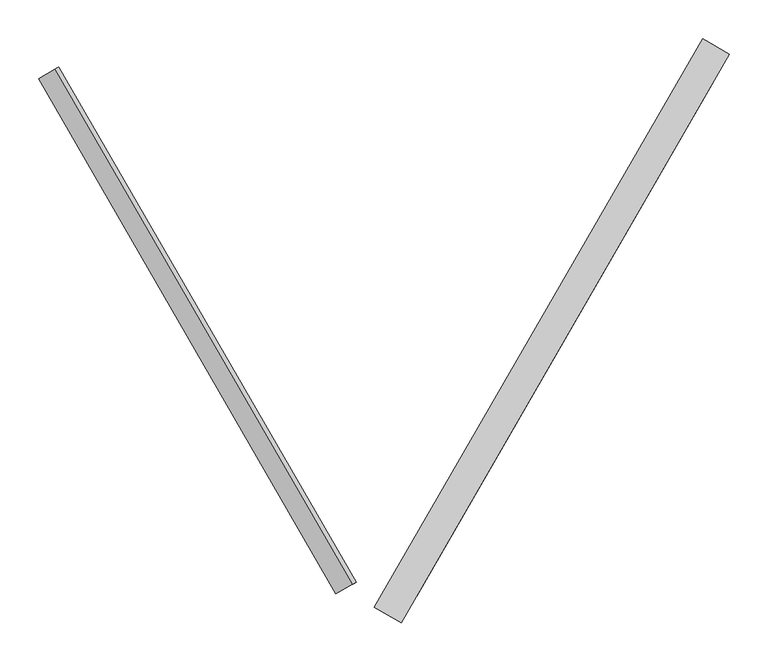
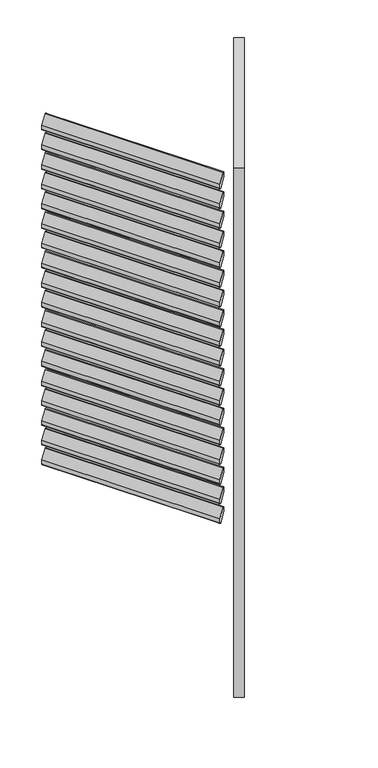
"""IFC4 building model written with IfcOpenShell, lengths in millimetres: proxy geometry, Renson_Amani_Loggia_Paro_Aluminium_Folding : Renson_Amani_Loggia_Paro_Aluminium_Folding."""

from ifc_helpers import new_model, si_unit, point, frame, frame_2d, origin, place, context, project, spatial, polyline, circle_curve, trimmed, segment, composite_curve, outline, extrude, source, transform, mapped, element, save


def generic_models_126ff3a6(model_context):
    return source(origin(), model_context, "Body", "SweptSolid", [
        extrude(outline(composite_curve([segment(trimmed(circle_curve(frame_2d((44.0658831, -3.0)), 3.0), [point((44.0658831, 0.0))], [point((45.6998002, -5.5160117))], False, "CARTESIAN"), True, "CONTINUOUS"), segment(polyline([(45.6998002, -5.5160117), (30.3011505, -15.5160117)]), True, "CONTINUOUS"), segment(trimmed(circle_curve(frame_2d((28.6672334, -13.0)), 3.0), [point((30.3011505, -15.5160117))], [point((28.6672334, -16.0))], False, "CARTESIAN"), True, "CONTINUOUS"), segment(polyline([(28.6672334, -16.0), (-15.3986496, -16.0)]), True, "CONTINUOUS"), segment(trimmed(circle_curve(frame_2d((-15.3986496, -13.0)), 3.0), [point((-15.3986496, -16.0))], [point((-17.0325667, -10.4839883))], False, "CARTESIAN"), True, "CONTINUOUS"), segment(polyline([(-17.0325667, -10.4839883), (-0.8886405, 0.0), (44.0658831, 0.0)]), True, "CONTINUOUS")], self_intersect=False)), frame((508.9546074, 37.7168064, 2397.3359298), z_axis=(0.5000000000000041, 0.8660254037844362, 0.0), x_axis=(-0.47167124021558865, 0.2723195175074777, 0.8386705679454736)), (0.0, 0.0, 1.0), 770.0),
        extrude(outline(composite_curve([segment(trimmed(circle_curve(frame_2d((44.0658831, -3.0)), 3.0), [point((44.0658831, 0.0))], [point((45.6998002, -5.5160117))], False, "CARTESIAN"), True, "CONTINUOUS"), segment(polyline([(45.6998002, -5.5160117), (30.3011505, -15.5160117)]), True, "CONTINUOUS"), segment(trimmed(circle_curve(frame_2d((28.6672334, -13.0)), 3.0), [point((30.3011505, -15.5160117))], [point((28.6672334, -16.0))], False, "CARTESIAN"), True, "CONTINUOUS"), segment(polyline([(28.6672334, -16.0), (-15.3986496, -16.0)]), True, "CONTINUOUS"), segment(trimmed(circle_curve(frame_2d((-15.3986496, -13.0)), 3.0), [point((-15.3986496, -16.0))], [point((-17.0325667, -10.4839883))], False, "CARTESIAN"), True, "CONTINUOUS"), segment(polyline([(-17.0325667, -10.4839883), (-0.8886405, 0.0), (44.0658831, 0.0)]), True, "CONTINUOUS")], self_intersect=False)), frame((508.9546074, 37.7168064, 2307.3359298), z_axis=(0.5000000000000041, 0.8660254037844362, 0.0), x_axis=(-0.47167124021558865, 0.2723195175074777, 0.8386705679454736)), (0.0, 0.0, 1.0), 770.0),
        extrude(outline(composite_curve([segment(trimmed(circle_curve(frame_2d((44.0658831, -3.0)), 3.0), [point((44.0658831, 0.0))], [point((45.6998002, -5.5160117))], False, "CARTESIAN"), True, "CONTINUOUS"), segment(polyline([(45.6998002, -5.5160117), (30.3011505, -15.5160117)]), True, "CONTINUOUS"), segment(trimmed(circle_curve(frame_2d((28.6672334, -13.0)), 3.0), [point((30.3011505, -15.5160117))], [point((28.6672334, -16.0))], False, "CARTESIAN"), True, "CONTINUOUS"), segment(polyline([(28.6672334, -16.0), (-15.3986496, -16.0)]), True, "CONTINUOUS"), segment(trimmed(circle_curve(frame_2d((-15.3986496, -13.0)), 3.0), [point((-15.3986496, -16.0))], [point((-17.0325667, -10.4839883))], False, "CARTESIAN"), True, "CONTINUOUS"), segment(polyline([(-17.0325667, -10.4839883), (-0.8886405, 0.0), (44.0658831, 0.0)]), True, "CONTINUOUS")], self_intersect=False)), frame((508.9546074, 37.7168064, 2217.3359298), z_axis=(0.5000000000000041, 0.8660254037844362, 0.0), x_axis=(-0.47167124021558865, 0.2723195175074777, 0.8386705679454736)), (0.0, 0.0, 1.0), 770.0),
        extrude(outline(composite_curve([segment(trimmed(circle_curve(frame_2d((44.0658831, -3.0)), 3.0), [point((44.0658831, 0.0))], [point((45.6998002, -5.5160117))], False, "CARTESIAN"), True, "CONTINUOUS"), segment(polyline([(45.6998002, -5.5160117), (30.3011505, -15.5160117)]), True, "CONTINUOUS"), segment(trimmed(circle_curve(frame_2d((28.6672334, -13.0)), 3.0), [point((30.3011505, -15.5160117))], [point((28.6672334, -16.0))], False, "CARTESIAN"), True, "CONTINUOUS"), segment(polyline([(28.6672334, -16.0), (-15.3986496, -16.0)]), True, "CONTINUOUS"), segment(trimmed(circle_curve(frame_2d((-15.3986496, -13.0)), 3.0), [point((-15.3986496, -16.0))], [point((-17.0325667, -10.4839883))], False, "CARTESIAN"), True, "CONTINUOUS"), segment(polyline([(-17.0325667, -10.4839883), (-0.8886405, 0.0), (44.0658831, 0.0)]), True, "CONTINUOUS")], self_intersect=False)), frame((508.9546074, 37.7168064, 2127.3359298), z_axis=(0.5000000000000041, 0.8660254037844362, 0.0), x_axis=(-0.47167124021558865, 0.2723195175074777, 0.8386705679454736)), (0.0, 0.0, 1.0), 770.0),
        extrude(outline(composite_curve([segment(trimmed(circle_curve(frame_2d((44.0658831, -3.0)), 3.0), [point((44.0658831, 0.0))], [point((45.6998002, -5.5160117))], False, "CARTESIAN"), True, "CONTINUOUS"), segment(polyline([(45.6998002, -5.5160117), (30.3011505, -15.5160117)]), True, "CONTINUOUS"), segment(trimmed(circle_curve(frame_2d((28.6672334, -13.0)), 3.0), [point((30.3011505, -15.5160117))], [point((28.6672334, -16.0))], False, "CARTESIAN"), True, "CONTINUOUS"), segment(polyline([(28.6672334, -16.0), (-15.3986496, -16.0)]), True, "CONTINUOUS"), segment(trimmed(circle_curve(frame_2d((-15.3986496, -13.0)), 3.0), [point((-15.3986496, -16.0))], [point((-17.0325667, -10.4839883))], False, "CARTESIAN"), True, "CONTINUOUS"), segment(polyline([(-17.0325667, -10.4839883), (-0.8886405, 0.0), (44.0658831, 0.0)]), True, "CONTINUOUS")], self_intersect=False)), frame((508.9546074, 37.7168064, 2037.3359298), z_axis=(0.5000000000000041, 0.8660254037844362, 0.0), x_axis=(-0.47167124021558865, 0.2723195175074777, 0.8386705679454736)), (0.0, 0.0, 1.0), 770.0),
        extrude(outline(composite_curve([segment(trimmed(circle_curve(frame_2d((44.0658831, -3.0)), 3.0), [point((44.0658831, 0.0))], [point((45.6998002, -5.5160117))], False, "CARTESIAN"), True, "CONTINUOUS"), segment(polyline([(45.6998002, -5.5160117), (30.3011505, -15.5160117)]), True, "CONTINUOUS"), segment(trimmed(circle_curve(frame_2d((28.6672334, -13.0)), 3.0), [point((30.3011505, -15.5160117))], [point((28.6672334, -16.0))], False, "CARTESIAN"), True, "CONTINUOUS"), segment(polyline([(28.6672334, -16.0), (-15.3986496, -16.0)]), True, "CONTINUOUS"), segment(trimmed(circle_curve(frame_2d((-15.3986496, -13.0)), 3.0), [point((-15.3986496, -16.0))], [point((-17.0325667, -10.4839883))], False, "CARTESIAN"), True, "CONTINUOUS"), segment(polyline([(-17.0325667, -10.4839883), (-0.8886405, 0.0), (44.0658831, 0.0)]), True, "CONTINUOUS")], self_intersect=False)), frame((508.9546074, 37.7168064, 1947.3359298), z_axis=(0.5000000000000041, 0.8660254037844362, 0.0), x_axis=(-0.47167124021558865, 0.2723195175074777, 0.8386705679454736)), (0.0, 0.0, 1.0), 770.0),
        extrude(outline(composite_curve([segment(trimmed(circle_curve(frame_2d((44.0658831, -3.0)), 3.0), [point((44.0658831, 0.0))], [point((45.6998002, -5.5160117))], False, "CARTESIAN"), True, "CONTINUOUS"), segment(polyline([(45.6998002, -5.5160117), (30.3011505, -15.5160117)]), True, "CONTINUOUS"), segment(trimmed(circle_curve(frame_2d((28.6672334, -13.0)), 3.0), [point((30.3011505, -15.5160117))], [point((28.6672334, -16.0))], False, "CARTESIAN"), True, "CONTINUOUS"), segment(polyline([(28.6672334, -16.0), (-15.3986496, -16.0)]), True, "CONTINUOUS"), segment(trimmed(circle_curve(frame_2d((-15.3986496, -13.0)), 3.0), [point((-15.3986496, -16.0))], [point((-17.0325667, -10.4839883))], False, "CARTESIAN"), True, "CONTINUOUS"), segment(polyline([(-17.0325667, -10.4839883), (-0.8886405, 0.0), (44.0658831, 0.0)]), True, "CONTINUOUS")], self_intersect=False)), frame((508.9546074, 37.7168064, 1857.3359298), z_axis=(0.5000000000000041, 0.8660254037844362, 0.0), x_axis=(-0.47167124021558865, 0.2723195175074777, 0.8386705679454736)), (0.0, 0.0, 1.0), 770.0),
        extrude(outline(composite_curve([segment(trimmed(circle_curve(frame_2d((44.0658831, -3.0)), 3.0), [point((44.0658831, 0.0))], [point((45.6998002, -5.5160117))], False, "CARTESIAN"), True, "CONTINUOUS"), segment(polyline([(45.6998002, -5.5160117), (30.3011505, -15.5160117)]), True, "CONTINUOUS"), segment(trimmed(circle_curve(frame_2d((28.6672334, -13.0)), 3.0), [point((30.3011505, -15.5160117))], [point((28.6672334, -16.0))], False, "CARTESIAN"), True, "CONTINUOUS"), segment(polyline([(28.6672334, -16.0), (-15.3986496, -16.0)]), True, "CONTINUOUS"), segment(trimmed(circle_curve(frame_2d((-15.3986496, -13.0)), 3.0), [point((-15.3986496, -16.0))], [point((-17.0325667, -10.4839883))], False, "CARTESIAN"), True, "CONTINUOUS"), segment(polyline([(-17.0325667, -10.4839883), (-0.8886405, 0.0), (44.0658831, 0.0)]), True, "CONTINUOUS")], self_intersect=False)), frame((508.9546074, 37.7168064, 1767.3359298), z_axis=(0.5000000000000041, 0.8660254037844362, 0.0), x_axis=(-0.47167124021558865, 0.2723195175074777, 0.8386705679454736)), (0.0, 0.0, 1.0), 770.0),
        extrude(outline(composite_curve([segment(trimmed(circle_curve(frame_2d((44.0658831, -3.0)), 3.0), [point((44.0658831, 0.0))], [point((45.6998002, -5.5160117))], False, "CARTESIAN"), True, "CONTINUOUS"), segment(polyline([(45.6998002, -5.5160117), (30.3011505, -15.5160117)]), True, "CONTINUOUS"), segment(trimmed(circle_curve(frame_2d((28.6672334, -13.0)), 3.0), [point((30.3011505, -15.5160117))], [point((28.6672334, -16.0))], False, "CARTESIAN"), True, "CONTINUOUS"), segment(polyline([(28.6672334, -16.0), (-15.3986496, -16.0)]), True, "CONTINUOUS"), segment(trimmed(circle_curve(frame_2d((-15.3986496, -13.0)), 3.0), [point((-15.3986496, -16.0))], [point((-17.0325667, -10.4839883))], False, "CARTESIAN"), True, "CONTINUOUS"), segment(polyline([(-17.0325667, -10.4839883), (-0.8886405, 0.0), (44.0658831, 0.0)]), True, "CONTINUOUS")], self_intersect=False)), frame((508.9546074, 37.7168064, 1677.3359298), z_axis=(0.5000000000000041, 0.8660254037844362, 0.0), x_axis=(-0.47167124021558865, 0.2723195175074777, 0.8386705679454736)), (0.0, 0.0, 1.0), 770.0),
        extrude(outline(composite_curve([segment(trimmed(circle_curve(frame_2d((44.0658831, -3.0)), 3.0), [point((44.0658831, 0.0))], [point((45.6998002, -5.5160117))], False, "CARTESIAN"), True, "CONTINUOUS"), segment(polyline([(45.6998002, -5.5160117), (30.3011505, -15.5160117)]), True, "CONTINUOUS"), segment(trimmed(circle_curve(frame_2d((28.6672334, -13.0)), 3.0), [point((30.3011505, -15.5160117))], [point((28.6672334, -16.0))], False, "CARTESIAN"), True, "CONTINUOUS"), segment(polyline([(28.6672334, -16.0), (-15.3986496, -16.0)]), True, "CONTINUOUS"), segment(trimmed(circle_curve(frame_2d((-15.3986496, -13.0)), 3.0), [point((-15.3986496, -16.0))], [point((-17.0325667, -10.4839883))], False, "CARTESIAN"), True, "CONTINUOUS"), segment(polyline([(-17.0325667, -10.4839883), (-0.8886405, 0.0), (44.0658831, 0.0)]), True, "CONTINUOUS")], self_intersect=False)), frame((508.9546074, 37.7168064, 1587.3359298), z_axis=(0.5000000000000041, 0.8660254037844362, 0.0), x_axis=(-0.47167124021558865, 0.2723195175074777, 0.8386705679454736)), (0.0, 0.0, 1.0), 770.0),
        extrude(outline(composite_curve([segment(trimmed(circle_curve(frame_2d((44.0658831, -3.0)), 3.0), [point((44.0658831, 0.0))], [point((45.6998002, -5.5160117))], False, "CARTESIAN"), True, "CONTINUOUS"), segment(polyline([(45.6998002, -5.5160117), (30.3011505, -15.5160117)]), True, "CONTINUOUS"), segment(trimmed(circle_curve(frame_2d((28.6672334, -13.0)), 3.0), [point((30.3011505, -15.5160117))], [point((28.6672334, -16.0))], False, "CARTESIAN"), True, "CONTINUOUS"), segment(polyline([(28.6672334, -16.0), (-15.3986496, -16.0)]), True, "CONTINUOUS"), segment(trimmed(circle_curve(frame_2d((-15.3986496, -13.0)), 3.0), [point((-15.3986496, -16.0))], [point((-17.0325667, -10.4839883))], False, "CARTESIAN"), True, "CONTINUOUS"), segment(polyline([(-17.0325667, -10.4839883), (-0.8886405, 0.0), (44.0658831, 0.0)]), True, "CONTINUOUS")], self_intersect=False)), frame((508.9546074, 37.7168064, 1497.3359298), z_axis=(0.5000000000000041, 0.8660254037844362, 0.0), x_axis=(-0.47167124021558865, 0.2723195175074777, 0.8386705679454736)), (0.0, 0.0, 1.0), 770.0),
        extrude(outline(composite_curve([segment(trimmed(circle_curve(frame_2d((44.0658831, -3.0)), 3.0), [point((44.0658831, 0.0))], [point((45.6998002, -5.5160117))], False, "CARTESIAN"), True, "CONTINUOUS"), segment(polyline([(45.6998002, -5.5160117), (30.3011505, -15.5160117)]), True, "CONTINUOUS"), segment(trimmed(circle_curve(frame_2d((28.6672334, -13.0)), 3.0), [point((30.3011505, -15.5160117))], [point((28.6672334, -16.0))], False, "CARTESIAN"), True, "CONTINUOUS"), segment(polyline([(28.6672334, -16.0), (-15.3986496, -16.0)]), True, "CONTINUOUS"), segment(trimmed(circle_curve(frame_2d((-15.3986496, -13.0)), 3.0), [point((-15.3986496, -16.0))], [point((-17.0325667, -10.4839883))], False, "CARTESIAN"), True, "CONTINUOUS"), segment(polyline([(-17.0325667, -10.4839883), (-0.8886405, 0.0), (44.0658831, 0.0)]), True, "CONTINUOUS")], self_intersect=False)), frame((508.9546074, 37.7168064, 1407.3359298), z_axis=(0.5000000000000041, 0.8660254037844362, 0.0), x_axis=(-0.47167124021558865, 0.2723195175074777, 0.8386705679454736)), (0.0, 0.0, 1.0), 770.0),
        extrude(outline(composite_curve([segment(trimmed(circle_curve(frame_2d((44.0658831, -3.0)), 3.0), [point((44.0658831, 0.0))], [point((45.6998002, -5.5160117))], False, "CARTESIAN"), True, "CONTINUOUS"), segment(polyline([(45.6998002, -5.5160117), (30.3011505, -15.5160117)]), True, "CONTINUOUS"), segment(trimmed(circle_curve(frame_2d((28.6672334, -13.0)), 3.0), [point((30.3011505, -15.5160117))], [point((28.6672334, -16.0))], False, "CARTESIAN"), True, "CONTINUOUS"), segment(polyline([(28.6672334, -16.0), (-15.3986496, -16.0)]), True, "CONTINUOUS"), segment(trimmed(circle_curve(frame_2d((-15.3986496, -13.0)), 3.0), [point((-15.3986496, -16.0))], [point((-17.0325667, -10.4839883))], False, "CARTESIAN"), True, "CONTINUOUS"), segment(polyline([(-17.0325667, -10.4839883), (-0.8886405, 0.0), (44.0658831, 0.0)]), True, "CONTINUOUS")], self_intersect=False)), frame((508.9546074, 37.7168064, 1317.3359298), z_axis=(0.5000000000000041, 0.8660254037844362, 0.0), x_axis=(-0.47167124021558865, 0.2723195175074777, 0.8386705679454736)), (0.0, 0.0, 1.0), 770.0),
        extrude(outline(composite_curve([segment(trimmed(circle_curve(frame_2d((44.0658831, -3.0)), 3.0), [point((44.0658831, 0.0))], [point((45.6998002, -5.5160117))], False, "CARTESIAN"), True, "CONTINUOUS"), segment(polyline([(45.6998002, -5.5160117), (30.3011505, -15.5160117)]), True, "CONTINUOUS"), segment(trimmed(circle_curve(frame_2d((28.6672334, -13.0)), 3.0), [point((30.3011505, -15.5160117))], [point((28.6672334, -16.0))], False, "CARTESIAN"), True, "CONTINUOUS"), segment(polyline([(28.6672334, -16.0), (-15.3986496, -16.0)]), True, "CONTINUOUS"), segment(trimmed(circle_curve(frame_2d((-15.3986496, -13.0)), 3.0), [point((-15.3986496, -16.0))], [point((-17.0325667, -10.4839883))], False, "CARTESIAN"), True, "CONTINUOUS"), segment(polyline([(-17.0325667, -10.4839883), (-0.8886405, 0.0), (44.0658831, 0.0)]), True, "CONTINUOUS")], self_intersect=False)), frame((508.9546074, 37.7168064, 1227.3359298), z_axis=(0.5000000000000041, 0.8660254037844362, 0.0), x_axis=(-0.47167124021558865, 0.2723195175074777, 0.8386705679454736)), (0.0, 0.0, 1.0), 770.0),
        extrude(outline(composite_curve([segment(trimmed(circle_curve(frame_2d((44.0658831, -3.0)), 3.0), [point((44.0658831, 0.0))], [point((45.6998002, -5.5160117))], False, "CARTESIAN"), True, "CONTINUOUS"), segment(polyline([(45.6998002, -5.5160117), (30.3011505, -15.5160117)]), True, "CONTINUOUS"), segment(trimmed(circle_curve(frame_2d((28.6672334, -13.0)), 3.0), [point((30.3011505, -15.5160117))], [point((28.6672334, -16.0))], False, "CARTESIAN"), True, "CONTINUOUS"), segment(polyline([(28.6672334, -16.0), (-15.3986496, -16.0)]), True, "CONTINUOUS"), segment(trimmed(circle_curve(frame_2d((-15.3986496, -13.0)), 3.0), [point((-15.3986496, -16.0))], [point((-17.0325667, -10.4839883))], False, "CARTESIAN"), True, "CONTINUOUS"), segment(polyline([(-17.0325667, -10.4839883), (-0.8886405, 0.0), (44.0658831, 0.0)]), True, "CONTINUOUS")], self_intersect=False)), frame((508.9546074, 37.7168064, 1137.3359298), z_axis=(0.5000000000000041, 0.8660254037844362, 0.0), x_axis=(-0.47167124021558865, 0.2723195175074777, 0.8386705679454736)), (0.0, 0.0, 1.0), 770.0),
        extrude(outline(composite_curve([segment(trimmed(circle_curve(frame_2d((44.0658831, -3.0)), 3.0), [point((44.0658831, 0.0))], [point((45.6998002, -5.5160117))], False, "CARTESIAN"), True, "CONTINUOUS"), segment(polyline([(45.6998002, -5.5160117), (30.3011505, -15.5160117)]), True, "CONTINUOUS"), segment(trimmed(circle_curve(frame_2d((28.6672334, -13.0)), 3.0), [point((30.3011505, -15.5160117))], [point((28.6672334, -16.0))], False, "CARTESIAN"), True, "CONTINUOUS"), segment(polyline([(28.6672334, -16.0), (-15.3986496, -16.0)]), True, "CONTINUOUS"), segment(trimmed(circle_curve(frame_2d((-15.3986496, -13.0)), 3.0), [point((-15.3986496, -16.0))], [point((-17.0325667, -10.4839883))], False, "CARTESIAN"), True, "CONTINUOUS"), segment(polyline([(-17.0325667, -10.4839883), (-0.8886405, 0.0), (44.0658831, 0.0)]), True, "CONTINUOUS")], self_intersect=False)), frame((508.9546074, 37.7168064, 1047.3359298), z_axis=(0.5000000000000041, 0.8660254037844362, 0.0), x_axis=(-0.47167124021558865, 0.2723195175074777, 0.8386705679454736)), (0.0, 0.0, 1.0), 770.0),
        extrude(outline(composite_curve([segment(trimmed(circle_curve(frame_2d((44.0658831, -3.0)), 3.0), [point((44.0658831, 0.0))], [point((45.6998002, -5.5160117))], False, "CARTESIAN"), True, "CONTINUOUS"), segment(polyline([(45.6998002, -5.5160117), (30.3011505, -15.5160117)]), True, "CONTINUOUS"), segment(trimmed(circle_curve(frame_2d((28.6672334, -13.0)), 3.0), [point((30.3011505, -15.5160117))], [point((28.6672334, -16.0))], False, "CARTESIAN"), True, "CONTINUOUS"), segment(polyline([(28.6672334, -16.0), (-15.3986496, -16.0)]), True, "CONTINUOUS"), segment(trimmed(circle_curve(frame_2d((-15.3986496, -13.0)), 3.0), [point((-15.3986496, -16.0))], [point((-17.0325667, -10.4839883))], False, "CARTESIAN"), True, "CONTINUOUS"), segment(polyline([(-17.0325667, -10.4839883), (-0.8886405, 0.0), (44.0658831, 0.0)]), True, "CONTINUOUS")], self_intersect=False)), frame((508.9546074, 37.7168064, 957.3359298), z_axis=(0.5000000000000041, 0.8660254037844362, 0.0), x_axis=(-0.47167124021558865, 0.2723195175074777, 0.8386705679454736)), (0.0, 0.0, 1.0), 770.0),
        extrude(outline(composite_curve([segment(trimmed(circle_curve(frame_2d((44.0658831, -3.0)), 3.0), [point((44.0658831, 0.0))], [point((45.6998002, -5.5160117))], False, "CARTESIAN"), True, "CONTINUOUS"), segment(polyline([(45.6998002, -5.5160117), (30.3011505, -15.5160117)]), True, "CONTINUOUS"), segment(trimmed(circle_curve(frame_2d((28.6672334, -13.0)), 3.0), [point((30.3011505, -15.5160117))], [point((28.6672334, -16.0))], False, "CARTESIAN"), True, "CONTINUOUS"), segment(polyline([(28.6672334, -16.0), (-15.3986496, -16.0)]), True, "CONTINUOUS"), segment(trimmed(circle_curve(frame_2d((-15.3986496, -13.0)), 3.0), [point((-15.3986496, -16.0))], [point((-17.0325667, -10.4839883))], False, "CARTESIAN"), True, "CONTINUOUS"), segment(polyline([(-17.0325667, -10.4839883), (-0.8886405, 0.0), (44.0658831, 0.0)]), True, "CONTINUOUS")], self_intersect=False)), frame((508.9546074, 37.7168064, 867.3359298), z_axis=(0.5000000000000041, 0.8660254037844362, 0.0), x_axis=(-0.47167124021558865, 0.2723195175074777, 0.8386705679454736)), (0.0, 0.0, 1.0), 770.0),
        extrude(outline(composite_curve([segment(trimmed(circle_curve(frame_2d((44.0658831, -3.0)), 3.0), [point((44.0658831, 0.0))], [point((45.6998002, -5.5160117))], False, "CARTESIAN"), True, "CONTINUOUS"), segment(polyline([(45.6998002, -5.5160117), (30.3011505, -15.5160117)]), True, "CONTINUOUS"), segment(trimmed(circle_curve(frame_2d((28.6672334, -13.0)), 3.0), [point((30.3011505, -15.5160117))], [point((28.6672334, -16.0))], False, "CARTESIAN"), True, "CONTINUOUS"), segment(polyline([(28.6672334, -16.0), (-15.3986496, -16.0)]), True, "CONTINUOUS"), segment(trimmed(circle_curve(frame_2d((-15.3986496, -13.0)), 3.0), [point((-15.3986496, -16.0))], [point((-17.0325667, -10.4839883))], False, "CARTESIAN"), True, "CONTINUOUS"), segment(polyline([(-17.0325667, -10.4839883), (-0.8886405, 0.0), (44.0658831, 0.0)]), True, "CONTINUOUS")], self_intersect=False)), frame((508.9546074, 37.7168064, 777.3359298), z_axis=(0.5000000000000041, 0.8660254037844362, 0.0), x_axis=(-0.47167124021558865, 0.2723195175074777, 0.8386705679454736)), (0.0, 0.0, 1.0), 770.0),
        extrude(outline(composite_curve([segment(trimmed(circle_curve(frame_2d((44.0658831, -3.0)), 3.0), [point((44.0658831, 0.0))], [point((45.6998002, -5.5160117))], False, "CARTESIAN"), True, "CONTINUOUS"), segment(polyline([(45.6998002, -5.5160117), (30.3011505, -15.5160117)]), True, "CONTINUOUS"), segment(trimmed(circle_curve(frame_2d((28.6672334, -13.0)), 3.0), [point((30.3011505, -15.5160117))], [point((28.6672334, -16.0))], False, "CARTESIAN"), True, "CONTINUOUS"), segment(polyline([(28.6672334, -16.0), (-15.3986496, -16.0)]), True, "CONTINUOUS"), segment(trimmed(circle_curve(frame_2d((-15.3986496, -13.0)), 3.0), [point((-15.3986496, -16.0))], [point((-17.0325667, -10.4839883))], False, "CARTESIAN"), True, "CONTINUOUS"), segment(polyline([(-17.0325667, -10.4839883), (-0.8886405, 0.0), (44.0658831, 0.0)]), True, "CONTINUOUS")], self_intersect=False)), frame((508.9546074, 37.7168064, 687.3359298), z_axis=(0.5000000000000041, 0.8660254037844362, 0.0), x_axis=(-0.47167124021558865, 0.2723195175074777, 0.8386705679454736)), (0.0, 0.0, 1.0), 770.0),
        extrude(outline(composite_curve([segment(trimmed(circle_curve(frame_2d((44.0658831, -3.0)), 3.0), [point((44.0658831, 0.0))], [point((45.6998002, -5.5160117))], False, "CARTESIAN"), True, "CONTINUOUS"), segment(polyline([(45.6998002, -5.5160117), (30.3011505, -15.5160117)]), True, "CONTINUOUS"), segment(trimmed(circle_curve(frame_2d((28.6672334, -13.0)), 3.0), [point((30.3011505, -15.5160117))], [point((28.6672334, -16.0))], False, "CARTESIAN"), True, "CONTINUOUS"), segment(polyline([(28.6672334, -16.0), (-15.3986496, -16.0)]), True, "CONTINUOUS"), segment(trimmed(circle_curve(frame_2d((-15.3986496, -13.0)), 3.0), [point((-15.3986496, -16.0))], [point((-17.0325667, -10.4839883))], False, "CARTESIAN"), True, "CONTINUOUS"), segment(polyline([(-17.0325667, -10.4839883), (-0.8886405, 0.0), (44.0658831, 0.0)]), True, "CONTINUOUS")], self_intersect=False)), frame((508.9546074, 37.7168064, 597.3359298), z_axis=(0.5000000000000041, 0.8660254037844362, 0.0), x_axis=(-0.47167124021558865, 0.2723195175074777, 0.8386705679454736)), (0.0, 0.0, 1.0), 770.0),
        extrude(outline(composite_curve([segment(trimmed(circle_curve(frame_2d((44.0658831, -3.0)), 3.0), [point((44.0658831, 0.0))], [point((45.6998002, -5.5160117))], False, "CARTESIAN"), True, "CONTINUOUS"), segment(polyline([(45.6998002, -5.5160117), (30.3011505, -15.5160117)]), True, "CONTINUOUS"), segment(trimmed(circle_curve(frame_2d((28.6672334, -13.0)), 3.0), [point((30.3011505, -15.5160117))], [point((28.6672334, -16.0))], False, "CARTESIAN"), True, "CONTINUOUS"), segment(polyline([(28.6672334, -16.0), (-15.3986496, -16.0)]), True, "CONTINUOUS"), segment(trimmed(circle_curve(frame_2d((-15.3986496, -13.0)), 3.0), [point((-15.3986496, -16.0))], [point((-17.0325667, -10.4839883))], False, "CARTESIAN"), True, "CONTINUOUS"), segment(polyline([(-17.0325667, -10.4839883), (-0.8886405, 0.0), (44.0658831, 0.0)]), True, "CONTINUOUS")], self_intersect=False)), frame((508.9546074, 37.7168064, 507.3359298), z_axis=(0.5000000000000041, 0.8660254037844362, 0.0), x_axis=(-0.47167124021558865, 0.2723195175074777, 0.8386705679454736)), (0.0, 0.0, 1.0), 770.0),
        extrude(outline(composite_curve([segment(trimmed(circle_curve(frame_2d((44.0658831, -3.0)), 3.0), [point((44.0658831, 0.0))], [point((45.6998002, -5.5160117))], False, "CARTESIAN"), True, "CONTINUOUS"), segment(polyline([(45.6998002, -5.5160117), (30.3011505, -15.5160117)]), True, "CONTINUOUS"), segment(trimmed(circle_curve(frame_2d((28.6672334, -13.0)), 3.0), [point((30.3011505, -15.5160117))], [point((28.6672334, -16.0))], False, "CARTESIAN"), True, "CONTINUOUS"), segment(polyline([(28.6672334, -16.0), (-15.3986496, -16.0)]), True, "CONTINUOUS"), segment(trimmed(circle_curve(frame_2d((-15.3986496, -13.0)), 3.0), [point((-15.3986496, -16.0))], [point((-17.0325667, -10.4839883))], False, "CARTESIAN"), True, "CONTINUOUS"), segment(polyline([(-17.0325667, -10.4839883), (-0.8886405, 0.0), (44.0658831, 0.0)]), True, "CONTINUOUS")], self_intersect=False)), frame((508.9546074, 37.7168064, 417.3359298), z_axis=(0.5000000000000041, 0.8660254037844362, 0.0), x_axis=(-0.47167124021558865, 0.2723195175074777, 0.8386705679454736)), (0.0, 0.0, 1.0), 770.0),
        extrude(outline(composite_curve([segment(trimmed(circle_curve(frame_2d((44.0658831, -3.0)), 3.0), [point((44.0658831, 0.0))], [point((45.6998002, -5.5160117))], False, "CARTESIAN"), True, "CONTINUOUS"), segment(polyline([(45.6998002, -5.5160117), (30.3011505, -15.5160117)]), True, "CONTINUOUS"), segment(trimmed(circle_curve(frame_2d((28.6672334, -13.0)), 3.0), [point((30.3011505, -15.5160117))], [point((28.6672334, -16.0))], False, "CARTESIAN"), True, "CONTINUOUS"), segment(polyline([(28.6672334, -16.0), (-15.3986496, -16.0)]), True, "CONTINUOUS"), segment(trimmed(circle_curve(frame_2d((-15.3986496, -13.0)), 3.0), [point((-15.3986496, -16.0))], [point((-17.0325667, -10.4839883))], False, "CARTESIAN"), True, "CONTINUOUS"), segment(polyline([(-17.0325667, -10.4839883), (-0.8886405, 0.0), (44.0658831, 0.0)]), True, "CONTINUOUS")], self_intersect=False)), frame((508.9546074, 37.7168064, 327.3359298), z_axis=(0.5000000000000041, 0.8660254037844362, 0.0), x_axis=(-0.47167124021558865, 0.2723195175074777, 0.8386705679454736)), (0.0, 0.0, 1.0), 770.0),
        extrude(outline(composite_curve([segment(trimmed(circle_curve(frame_2d((44.0658831, -3.0)), 3.0), [point((44.0658831, 0.0))], [point((45.6998002, -5.5160117))], False, "CARTESIAN"), True, "CONTINUOUS"), segment(polyline([(45.6998002, -5.5160117), (30.3011505, -15.5160117)]), True, "CONTINUOUS"), segment(trimmed(circle_curve(frame_2d((28.6672334, -13.0)), 3.0), [point((30.3011505, -15.5160117))], [point((28.6672334, -16.0))], False, "CARTESIAN"), True, "CONTINUOUS"), segment(polyline([(28.6672334, -16.0), (-15.3986496, -16.0)]), True, "CONTINUOUS"), segment(trimmed(circle_curve(frame_2d((-15.3986496, -13.0)), 3.0), [point((-15.3986496, -16.0))], [point((-17.0325667, -10.4839883))], False, "CARTESIAN"), True, "CONTINUOUS"), segment(polyline([(-17.0325667, -10.4839883), (-0.8886405, 0.0), (44.0658831, 0.0)]), True, "CONTINUOUS")], self_intersect=False)), frame((508.9546074, 37.7168064, 237.3359298), z_axis=(0.5000000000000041, 0.8660254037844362, 0.0), x_axis=(-0.47167124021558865, 0.2723195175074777, 0.8386705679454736)), (0.0, 0.0, 1.0), 770.0),
        extrude(outline(composite_curve([segment(trimmed(circle_curve(frame_2d((44.0658831, -3.0)), 3.0), [point((44.0658831, 0.0))], [point((45.6998002, -5.5160117))], False, "CARTESIAN"), True, "CONTINUOUS"), segment(polyline([(45.6998002, -5.5160117), (30.3011505, -15.5160117)]), True, "CONTINUOUS"), segment(trimmed(circle_curve(frame_2d((28.6672334, -13.0)), 3.0), [point((30.3011505, -15.5160117))], [point((28.6672334, -16.0))], False, "CARTESIAN"), True, "CONTINUOUS"), segment(polyline([(28.6672334, -16.0), (-15.3986496, -16.0)]), True, "CONTINUOUS"), segment(trimmed(circle_curve(frame_2d((-15.3986496, -13.0)), 3.0), [point((-15.3986496, -16.0))], [point((-17.0325667, -10.4839883))], False, "CARTESIAN"), True, "CONTINUOUS"), segment(polyline([(-17.0325667, -10.4839883), (-0.8886405, 0.0), (44.0658831, 0.0)]), True, "CONTINUOUS")], self_intersect=False)), frame((508.9546074, 37.7168064, 147.3359298), z_axis=(0.5000000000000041, 0.8660254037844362, 0.0), x_axis=(-0.47167124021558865, 0.2723195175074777, 0.8386705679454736)), (0.0, 0.0, 1.0), 770.0),
        extrude(outline(polyline([(2380.0, -40.0), (-40.0, -40.0), (-40.0, 809.9999999), (2380.0, 809.9999999), (2380.0, -40.0)]), holes=[polyline([(2340.0, 770.0), (0.0, 770.0), (0.0, 0.0), (2340.0, 0.0), (2340.0, 770.0)])]), frame((514.2820323, 34.6410162, 85.0), z_axis=(-0.8660254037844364, 0.5000000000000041, 0.0), x_axis=(0.0, 0.0, 1.0)), (0.0, 0.0, 1.0), 40.0),
        extrude(outline(composite_curve([segment(polyline([(-44.0658831, 0.0), (0.8886405, 0.0), (17.0325667, -10.4839883)]), True, "CONTINUOUS"), segment(trimmed(circle_curve(frame_2d((15.3986496, -13.0)), 3.0), [point((17.0325667, -10.4839883))], [point((15.3986496, -16.0))], False, "CARTESIAN"), True, "CONTINUOUS"), segment(polyline([(15.3986496, -16.0), (-28.6672334, -16.0)]), True, "CONTINUOUS"), segment(trimmed(circle_curve(frame_2d((-28.6672334, -13.0)), 3.0), [point((-28.6672334, -16.0))], [point((-30.3011505, -15.5160117))], False, "CARTESIAN"), True, "CONTINUOUS"), segment(polyline([(-30.3011505, -15.5160117), (-45.6998002, -5.5160117)]), True, "CONTINUOUS"), segment(trimmed(circle_curve(frame_2d((-44.0658831, -3.0)), 3.0), [point((-45.6998002, -5.5160117))], [point((-44.0658831, 0.0))], False, "CARTESIAN"), True, "CONTINUOUS")], self_intersect=False)), frame((410.3274249, 37.7168064, 2397.3359298), z_axis=(-0.5000000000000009, 0.8660254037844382, 0.0), x_axis=(-0.47167124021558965, -0.27231951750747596, -0.8386705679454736)), (0.0, 0.0, 1.0), 770.0),
        extrude(outline(composite_curve([segment(polyline([(-44.0658831, 0.0), (0.8886405, 0.0), (17.0325667, -10.4839883)]), True, "CONTINUOUS"), segment(trimmed(circle_curve(frame_2d((15.3986496, -13.0)), 3.0), [point((17.0325667, -10.4839883))], [point((15.3986496, -16.0))], False, "CARTESIAN"), True, "CONTINUOUS"), segment(polyline([(15.3986496, -16.0), (-28.6672334, -16.0)]), True, "CONTINUOUS"), segment(trimmed(circle_curve(frame_2d((-28.6672334, -13.0)), 3.0), [point((-28.6672334, -16.0))], [point((-30.3011505, -15.5160117))], False, "CARTESIAN"), True, "CONTINUOUS"), segment(polyline([(-30.3011505, -15.5160117), (-45.6998002, -5.5160117)]), True, "CONTINUOUS"), segment(trimmed(circle_curve(frame_2d((-44.0658831, -3.0)), 3.0), [point((-45.6998002, -5.5160117))], [point((-44.0658831, 0.0))], False, "CARTESIAN"), True, "CONTINUOUS")], self_intersect=False)), frame((410.3274249, 37.7168064, 2307.3359298), z_axis=(-0.5000000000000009, 0.8660254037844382, 0.0), x_axis=(-0.47167124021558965, -0.27231951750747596, -0.8386705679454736)), (0.0, 0.0, 1.0), 770.0),
        extrude(outline(composite_curve([segment(polyline([(-44.0658831, 0.0), (0.8886405, 0.0), (17.0325667, -10.4839883)]), True, "CONTINUOUS"), segment(trimmed(circle_curve(frame_2d((15.3986496, -13.0)), 3.0), [point((17.0325667, -10.4839883))], [point((15.3986496, -16.0))], False, "CARTESIAN"), True, "CONTINUOUS"), segment(polyline([(15.3986496, -16.0), (-28.6672334, -16.0)]), True, "CONTINUOUS"), segment(trimmed(circle_curve(frame_2d((-28.6672334, -13.0)), 3.0), [point((-28.6672334, -16.0))], [point((-30.3011505, -15.5160117))], False, "CARTESIAN"), True, "CONTINUOUS"), segment(polyline([(-30.3011505, -15.5160117), (-45.6998002, -5.5160117)]), True, "CONTINUOUS"), segment(trimmed(circle_curve(frame_2d((-44.0658831, -3.0)), 3.0), [point((-45.6998002, -5.5160117))], [point((-44.0658831, 0.0))], False, "CARTESIAN"), True, "CONTINUOUS")], self_intersect=False)), frame((410.3274249, 37.7168064, 2217.3359298), z_axis=(-0.5000000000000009, 0.8660254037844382, 0.0), x_axis=(-0.47167124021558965, -0.27231951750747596, -0.8386705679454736)), (0.0, 0.0, 1.0), 770.0),
        extrude(outline(composite_curve([segment(polyline([(-44.0658831, 0.0), (0.8886405, 0.0), (17.0325667, -10.4839883)]), True, "CONTINUOUS"), segment(trimmed(circle_curve(frame_2d((15.3986496, -13.0)), 3.0), [point((17.0325667, -10.4839883))], [point((15.3986496, -16.0))], False, "CARTESIAN"), True, "CONTINUOUS"), segment(polyline([(15.3986496, -16.0), (-28.6672334, -16.0)]), True, "CONTINUOUS"), segment(trimmed(circle_curve(frame_2d((-28.6672334, -13.0)), 3.0), [point((-28.6672334, -16.0))], [point((-30.3011505, -15.5160117))], False, "CARTESIAN"), True, "CONTINUOUS"), segment(polyline([(-30.3011505, -15.5160117), (-45.6998002, -5.5160117)]), True, "CONTINUOUS"), segment(trimmed(circle_curve(frame_2d((-44.0658831, -3.0)), 3.0), [point((-45.6998002, -5.5160117))], [point((-44.0658831, 0.0))], False, "CARTESIAN"), True, "CONTINUOUS")], self_intersect=False)), frame((410.3274249, 37.7168064, 2127.3359298), z_axis=(-0.5000000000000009, 0.8660254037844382, 0.0), x_axis=(-0.47167124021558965, -0.27231951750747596, -0.8386705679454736)), (0.0, 0.0, 1.0), 770.0),
        extrude(outline(composite_curve([segment(polyline([(-44.0658831, 0.0), (0.8886405, 0.0), (17.0325667, -10.4839883)]), True, "CONTINUOUS"), segment(trimmed(circle_curve(frame_2d((15.3986496, -13.0)), 3.0), [point((17.0325667, -10.4839883))], [point((15.3986496, -16.0))], False, "CARTESIAN"), True, "CONTINUOUS"), segment(polyline([(15.3986496, -16.0), (-28.6672334, -16.0)]), True, "CONTINUOUS"), segment(trimmed(circle_curve(frame_2d((-28.6672334, -13.0)), 3.0), [point((-28.6672334, -16.0))], [point((-30.3011505, -15.5160117))], False, "CARTESIAN"), True, "CONTINUOUS"), segment(polyline([(-30.3011505, -15.5160117), (-45.6998002, -5.5160117)]), True, "CONTINUOUS"), segment(trimmed(circle_curve(frame_2d((-44.0658831, -3.0)), 3.0), [point((-45.6998002, -5.5160117))], [point((-44.0658831, 0.0))], False, "CARTESIAN"), True, "CONTINUOUS")], self_intersect=False)), frame((410.3274249, 37.7168064, 2037.3359298), z_axis=(-0.5000000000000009, 0.8660254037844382, 0.0), x_axis=(-0.47167124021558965, -0.27231951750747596, -0.8386705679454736)), (0.0, 0.0, 1.0), 770.0),
        extrude(outline(composite_curve([segment(polyline([(-44.0658831, 0.0), (0.8886405, 0.0), (17.0325667, -10.4839883)]), True, "CONTINUOUS"), segment(trimmed(circle_curve(frame_2d((15.3986496, -13.0)), 3.0), [point((17.0325667, -10.4839883))], [point((15.3986496, -16.0))], False, "CARTESIAN"), True, "CONTINUOUS"), segment(polyline([(15.3986496, -16.0), (-28.6672334, -16.0)]), True, "CONTINUOUS"), segment(trimmed(circle_curve(frame_2d((-28.6672334, -13.0)), 3.0), [point((-28.6672334, -16.0))], [point((-30.3011505, -15.5160117))], False, "CARTESIAN"), True, "CONTINUOUS"), segment(polyline([(-30.3011505, -15.5160117), (-45.6998002, -5.5160117)]), True, "CONTINUOUS"), segment(trimmed(circle_curve(frame_2d((-44.0658831, -3.0)), 3.0), [point((-45.6998002, -5.5160117))], [point((-44.0658831, 0.0))], False, "CARTESIAN"), True, "CONTINUOUS")], self_intersect=False)), frame((410.3274249, 37.7168064, 1947.3359298), z_axis=(-0.5000000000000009, 0.8660254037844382, 0.0), x_axis=(-0.47167124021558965, -0.27231951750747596, -0.8386705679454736)), (0.0, 0.0, 1.0), 770.0),
        extrude(outline(composite_curve([segment(polyline([(-44.0658831, 0.0), (0.8886405, 0.0), (17.0325667, -10.4839883)]), True, "CONTINUOUS"), segment(trimmed(circle_curve(frame_2d((15.3986496, -13.0)), 3.0), [point((17.0325667, -10.4839883))], [point((15.3986496, -16.0))], False, "CARTESIAN"), True, "CONTINUOUS"), segment(polyline([(15.3986496, -16.0), (-28.6672334, -16.0)]), True, "CONTINUOUS"), segment(trimmed(circle_curve(frame_2d((-28.6672334, -13.0)), 3.0), [point((-28.6672334, -16.0))], [point((-30.3011505, -15.5160117))], False, "CARTESIAN"), True, "CONTINUOUS"), segment(polyline([(-30.3011505, -15.5160117), (-45.6998002, -5.5160117)]), True, "CONTINUOUS"), segment(trimmed(circle_curve(frame_2d((-44.0658831, -3.0)), 3.0), [point((-45.6998002, -5.5160117))], [point((-44.0658831, 0.0))], False, "CARTESIAN"), True, "CONTINUOUS")], self_intersect=False)), frame((410.3274249, 37.7168064, 1857.3359298), z_axis=(-0.5000000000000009, 0.8660254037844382, 0.0), x_axis=(-0.47167124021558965, -0.27231951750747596, -0.8386705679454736)), (0.0, 0.0, 1.0), 770.0),
        extrude(outline(composite_curve([segment(polyline([(-44.0658831, 0.0), (0.8886405, 0.0), (17.0325667, -10.4839883)]), True, "CONTINUOUS"), segment(trimmed(circle_curve(frame_2d((15.3986496, -13.0)), 3.0), [point((17.0325667, -10.4839883))], [point((15.3986496, -16.0))], False, "CARTESIAN"), True, "CONTINUOUS"), segment(polyline([(15.3986496, -16.0), (-28.6672334, -16.0)]), True, "CONTINUOUS"), segment(trimmed(circle_curve(frame_2d((-28.6672334, -13.0)), 3.0), [point((-28.6672334, -16.0))], [point((-30.3011505, -15.5160117))], False, "CARTESIAN"), True, "CONTINUOUS"), segment(polyline([(-30.3011505, -15.5160117), (-45.6998002, -5.5160117)]), True, "CONTINUOUS"), segment(trimmed(circle_curve(frame_2d((-44.0658831, -3.0)), 3.0), [point((-45.6998002, -5.5160117))], [point((-44.0658831, 0.0))], False, "CARTESIAN"), True, "CONTINUOUS")], self_intersect=False)), frame((410.3274249, 37.7168064, 1767.3359298), z_axis=(-0.5000000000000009, 0.8660254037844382, 0.0), x_axis=(-0.47167124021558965, -0.27231951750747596, -0.8386705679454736)), (0.0, 0.0, 1.0), 770.0),
        extrude(outline(composite_curve([segment(polyline([(-44.0658831, 0.0), (0.8886405, 0.0), (17.0325667, -10.4839883)]), True, "CONTINUOUS"), segment(trimmed(circle_curve(frame_2d((15.3986496, -13.0)), 3.0), [point((17.0325667, -10.4839883))], [point((15.3986496, -16.0))], False, "CARTESIAN"), True, "CONTINUOUS"), segment(polyline([(15.3986496, -16.0), (-28.6672334, -16.0)]), True, "CONTINUOUS"), segment(trimmed(circle_curve(frame_2d((-28.6672334, -13.0)), 3.0), [point((-28.6672334, -16.0))], [point((-30.3011505, -15.5160117))], False, "CARTESIAN"), True, "CONTINUOUS"), segment(polyline([(-30.3011505, -15.5160117), (-45.6998002, -5.5160117)]), True, "CONTINUOUS"), segment(trimmed(circle_curve(frame_2d((-44.0658831, -3.0)), 3.0), [point((-45.6998002, -5.5160117))], [point((-44.0658831, 0.0))], False, "CARTESIAN"), True, "CONTINUOUS")], self_intersect=False)), frame((410.3274249, 37.7168064, 1677.3359298), z_axis=(-0.5000000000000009, 0.8660254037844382, 0.0), x_axis=(-0.47167124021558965, -0.27231951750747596, -0.8386705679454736)), (0.0, 0.0, 1.0), 770.0),
        extrude(outline(composite_curve([segment(polyline([(-44.0658831, 0.0), (0.8886405, 0.0), (17.0325667, -10.4839883)]), True, "CONTINUOUS"), segment(trimmed(circle_curve(frame_2d((15.3986496, -13.0)), 3.0), [point((17.0325667, -10.4839883))], [point((15.3986496, -16.0))], False, "CARTESIAN"), True, "CONTINUOUS"), segment(polyline([(15.3986496, -16.0), (-28.6672334, -16.0)]), True, "CONTINUOUS"), segment(trimmed(circle_curve(frame_2d((-28.6672334, -13.0)), 3.0), [point((-28.6672334, -16.0))], [point((-30.3011505, -15.5160117))], False, "CARTESIAN"), True, "CONTINUOUS"), segment(polyline([(-30.3011505, -15.5160117), (-45.6998002, -5.5160117)]), True, "CONTINUOUS"), segment(trimmed(circle_curve(frame_2d((-44.0658831, -3.0)), 3.0), [point((-45.6998002, -5.5160117))], [point((-44.0658831, 0.0))], False, "CARTESIAN"), True, "CONTINUOUS")], self_intersect=False)), frame((410.3274249, 37.7168064, 1587.3359298), z_axis=(-0.5000000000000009, 0.8660254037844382, 0.0), x_axis=(-0.47167124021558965, -0.27231951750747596, -0.8386705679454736)), (0.0, 0.0, 1.0), 770.0),
        extrude(outline(composite_curve([segment(polyline([(-44.0658831, 0.0), (0.8886405, 0.0), (17.0325667, -10.4839883)]), True, "CONTINUOUS"), segment(trimmed(circle_curve(frame_2d((15.3986496, -13.0)), 3.0), [point((17.0325667, -10.4839883))], [point((15.3986496, -16.0))], False, "CARTESIAN"), True, "CONTINUOUS"), segment(polyline([(15.3986496, -16.0), (-28.6672334, -16.0)]), True, "CONTINUOUS"), segment(trimmed(circle_curve(frame_2d((-28.6672334, -13.0)), 3.0), [point((-28.6672334, -16.0))], [point((-30.3011505, -15.5160117))], False, "CARTESIAN"), True, "CONTINUOUS"), segment(polyline([(-30.3011505, -15.5160117), (-45.6998002, -5.5160117)]), True, "CONTINUOUS"), segment(trimmed(circle_curve(frame_2d((-44.0658831, -3.0)), 3.0), [point((-45.6998002, -5.5160117))], [point((-44.0658831, 0.0))], False, "CARTESIAN"), True, "CONTINUOUS")], self_intersect=False)), frame((410.3274249, 37.7168064, 1497.3359298), z_axis=(-0.5000000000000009, 0.8660254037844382, 0.0), x_axis=(-0.47167124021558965, -0.27231951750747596, -0.8386705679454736)), (0.0, 0.0, 1.0), 770.0),
        extrude(outline(composite_curve([segment(polyline([(-44.0658831, 0.0), (0.8886405, 0.0), (17.0325667, -10.4839883)]), True, "CONTINUOUS"), segment(trimmed(circle_curve(frame_2d((15.3986496, -13.0)), 3.0), [point((17.0325667, -10.4839883))], [point((15.3986496, -16.0))], False, "CARTESIAN"), True, "CONTINUOUS"), segment(polyline([(15.3986496, -16.0), (-28.6672334, -16.0)]), True, "CONTINUOUS"), segment(trimmed(circle_curve(frame_2d((-28.6672334, -13.0)), 3.0), [point((-28.6672334, -16.0))], [point((-30.3011505, -15.5160117))], False, "CARTESIAN"), True, "CONTINUOUS"), segment(polyline([(-30.3011505, -15.5160117), (-45.6998002, -5.5160117)]), True, "CONTINUOUS"), segment(trimmed(circle_curve(frame_2d((-44.0658831, -3.0)), 3.0), [point((-45.6998002, -5.5160117))], [point((-44.0658831, 0.0))], False, "CARTESIAN"), True, "CONTINUOUS")], self_intersect=False)), frame((410.3274249, 37.7168064, 1407.3359298), z_axis=(-0.5000000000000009, 0.8660254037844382, 0.0), x_axis=(-0.47167124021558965, -0.27231951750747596, -0.8386705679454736)), (0.0, 0.0, 1.0), 770.0),
        extrude(outline(composite_curve([segment(polyline([(-44.0658831, 0.0), (0.8886405, 0.0), (17.0325667, -10.4839883)]), True, "CONTINUOUS"), segment(trimmed(circle_curve(frame_2d((15.3986496, -13.0)), 3.0), [point((17.0325667, -10.4839883))], [point((15.3986496, -16.0))], False, "CARTESIAN"), True, "CONTINUOUS"), segment(polyline([(15.3986496, -16.0), (-28.6672334, -16.0)]), True, "CONTINUOUS"), segment(trimmed(circle_curve(frame_2d((-28.6672334, -13.0)), 3.0), [point((-28.6672334, -16.0))], [point((-30.3011505, -15.5160117))], False, "CARTESIAN"), True, "CONTINUOUS"), segment(polyline([(-30.3011505, -15.5160117), (-45.6998002, -5.5160117)]), True, "CONTINUOUS"), segment(trimmed(circle_curve(frame_2d((-44.0658831, -3.0)), 3.0), [point((-45.6998002, -5.5160117))], [point((-44.0658831, 0.0))], False, "CARTESIAN"), True, "CONTINUOUS")], self_intersect=False)), frame((410.3274249, 37.7168064, 1317.3359298), z_axis=(-0.5000000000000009, 0.8660254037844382, 0.0), x_axis=(-0.47167124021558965, -0.27231951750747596, -0.8386705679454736)), (0.0, 0.0, 1.0), 770.0),
        extrude(outline(composite_curve([segment(polyline([(-44.0658831, 0.0), (0.8886405, 0.0), (17.0325667, -10.4839883)]), True, "CONTINUOUS"), segment(trimmed(circle_curve(frame_2d((15.3986496, -13.0)), 3.0), [point((17.0325667, -10.4839883))], [point((15.3986496, -16.0))], False, "CARTESIAN"), True, "CONTINUOUS"), segment(polyline([(15.3986496, -16.0), (-28.6672334, -16.0)]), True, "CONTINUOUS"), segment(trimmed(circle_curve(frame_2d((-28.6672334, -13.0)), 3.0), [point((-28.6672334, -16.0))], [point((-30.3011505, -15.5160117))], False, "CARTESIAN"), True, "CONTINUOUS"), segment(polyline([(-30.3011505, -15.5160117), (-45.6998002, -5.5160117)]), True, "CONTINUOUS"), segment(trimmed(circle_curve(frame_2d((-44.0658831, -3.0)), 3.0), [point((-45.6998002, -5.5160117))], [point((-44.0658831, 0.0))], False, "CARTESIAN"), True, "CONTINUOUS")], self_intersect=False)), frame((410.3274249, 37.7168064, 1227.3359298), z_axis=(-0.5000000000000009, 0.8660254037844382, 0.0), x_axis=(-0.47167124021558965, -0.27231951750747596, -0.8386705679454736)), (0.0, 0.0, 1.0), 770.0),
        extrude(outline(composite_curve([segment(polyline([(-44.0658831, 0.0), (0.8886405, 0.0), (17.0325667, -10.4839883)]), True, "CONTINUOUS"), segment(trimmed(circle_curve(frame_2d((15.3986496, -13.0)), 3.0), [point((17.0325667, -10.4839883))], [point((15.3986496, -16.0))], False, "CARTESIAN"), True, "CONTINUOUS"), segment(polyline([(15.3986496, -16.0), (-28.6672334, -16.0)]), True, "CONTINUOUS"), segment(trimmed(circle_curve(frame_2d((-28.6672334, -13.0)), 3.0), [point((-28.6672334, -16.0))], [point((-30.3011505, -15.5160117))], False, "CARTESIAN"), True, "CONTINUOUS"), segment(polyline([(-30.3011505, -15.5160117), (-45.6998002, -5.5160117)]), True, "CONTINUOUS"), segment(trimmed(circle_curve(frame_2d((-44.0658831, -3.0)), 3.0), [point((-45.6998002, -5.5160117))], [point((-44.0658831, 0.0))], False, "CARTESIAN"), True, "CONTINUOUS")], self_intersect=False)), frame((410.3274249, 37.7168064, 1137.3359298), z_axis=(-0.5000000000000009, 0.8660254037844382, 0.0), x_axis=(-0.47167124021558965, -0.27231951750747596, -0.8386705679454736)), (0.0, 0.0, 1.0), 770.0),
        extrude(outline(composite_curve([segment(polyline([(-44.0658831, 0.0), (0.8886405, 0.0), (17.0325667, -10.4839883)]), True, "CONTINUOUS"), segment(trimmed(circle_curve(frame_2d((15.3986496, -13.0)), 3.0), [point((17.0325667, -10.4839883))], [point((15.3986496, -16.0))], False, "CARTESIAN"), True, "CONTINUOUS"), segment(polyline([(15.3986496, -16.0), (-28.6672334, -16.0)]), True, "CONTINUOUS"), segment(trimmed(circle_curve(frame_2d((-28.6672334, -13.0)), 3.0), [point((-28.6672334, -16.0))], [point((-30.3011505, -15.5160117))], False, "CARTESIAN"), True, "CONTINUOUS"), segment(polyline([(-30.3011505, -15.5160117), (-45.6998002, -5.5160117)]), True, "CONTINUOUS"), segment(trimmed(circle_curve(frame_2d((-44.0658831, -3.0)), 3.0), [point((-45.6998002, -5.5160117))], [point((-44.0658831, 0.0))], False, "CARTESIAN"), True, "CONTINUOUS")], self_intersect=False)), frame((410.3274249, 37.7168064, 1047.3359298), z_axis=(-0.5000000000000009, 0.8660254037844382, 0.0), x_axis=(-0.47167124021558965, -0.27231951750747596, -0.8386705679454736)), (0.0, 0.0, 1.0), 770.0),
        extrude(outline(composite_curve([segment(polyline([(-44.0658831, 0.0), (0.8886405, 0.0), (17.0325667, -10.4839883)]), True, "CONTINUOUS"), segment(trimmed(circle_curve(frame_2d((15.3986496, -13.0)), 3.0), [point((17.0325667, -10.4839883))], [point((15.3986496, -16.0))], False, "CARTESIAN"), True, "CONTINUOUS"), segment(polyline([(15.3986496, -16.0), (-28.6672334, -16.0)]), True, "CONTINUOUS"), segment(trimmed(circle_curve(frame_2d((-28.6672334, -13.0)), 3.0), [point((-28.6672334, -16.0))], [point((-30.3011505, -15.5160117))], False, "CARTESIAN"), True, "CONTINUOUS"), segment(polyline([(-30.3011505, -15.5160117), (-45.6998002, -5.5160117)]), True, "CONTINUOUS"), segment(trimmed(circle_curve(frame_2d((-44.0658831, -3.0)), 3.0), [point((-45.6998002, -5.5160117))], [point((-44.0658831, 0.0))], False, "CARTESIAN"), True, "CONTINUOUS")], self_intersect=False)), frame((410.3274249, 37.7168064, 957.3359298), z_axis=(-0.5000000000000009, 0.8660254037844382, 0.0), x_axis=(-0.47167124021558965, -0.27231951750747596, -0.8386705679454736)), (0.0, 0.0, 1.0), 770.0),
        extrude(outline(composite_curve([segment(polyline([(-44.0658831, 0.0), (0.8886405, 0.0), (17.0325667, -10.4839883)]), True, "CONTINUOUS"), segment(trimmed(circle_curve(frame_2d((15.3986496, -13.0)), 3.0), [point((17.0325667, -10.4839883))], [point((15.3986496, -16.0))], False, "CARTESIAN"), True, "CONTINUOUS"), segment(polyline([(15.3986496, -16.0), (-28.6672334, -16.0)]), True, "CONTINUOUS"), segment(trimmed(circle_curve(frame_2d((-28.6672334, -13.0)), 3.0), [point((-28.6672334, -16.0))], [point((-30.3011505, -15.5160117))], False, "CARTESIAN"), True, "CONTINUOUS"), segment(polyline([(-30.3011505, -15.5160117), (-45.6998002, -5.5160117)]), True, "CONTINUOUS"), segment(trimmed(circle_curve(frame_2d((-44.0658831, -3.0)), 3.0), [point((-45.6998002, -5.5160117))], [point((-44.0658831, 0.0))], False, "CARTESIAN"), True, "CONTINUOUS")], self_intersect=False)), frame((410.3274249, 37.7168064, 867.3359298), z_axis=(-0.5000000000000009, 0.8660254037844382, 0.0), x_axis=(-0.47167124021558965, -0.27231951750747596, -0.8386705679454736)), (0.0, 0.0, 1.0), 770.0),
    ])


if __name__ == "__main__":
    model = new_model("IFC4")
    model_context = context("Model", 3, world=origin())
    ifc_project = project(units=[si_unit("LENGTHUNIT", "METRE", prefix="MILLI")], contexts=[model_context])
    site = spatial("IfcSite", under=ifc_project)
    building = spatial("IfcBuilding", under=site)
    placement = place(None, origin())
    generic_models_shape = generic_models_126ff3a6(model_context)
    element("IfcBuildingElementProxy", 1, Name="Renson_Amani_Loggia_Paro_Aluminium_Folding : Renson_Amani_Loggia_Paro_Aluminium_Folding", ObjectType="Renson_Amani_Loggia_Paro_Aluminium_Folding : Renson_Amani_Loggia_Paro_Aluminium_Folding", at=placement, inside=building, context=model_context, shape_type="MappedRepresentation", body=[
        mapped(generic_models_shape, transform((0.0, 0.0, 0.0), x_axis=(1.0, 0.0, 0.0), y_axis=(0.0, 1.0, 0.0), z_axis=(0.0, 0.0, 1.0))),
    ])
    save(model, "model.ifc")
